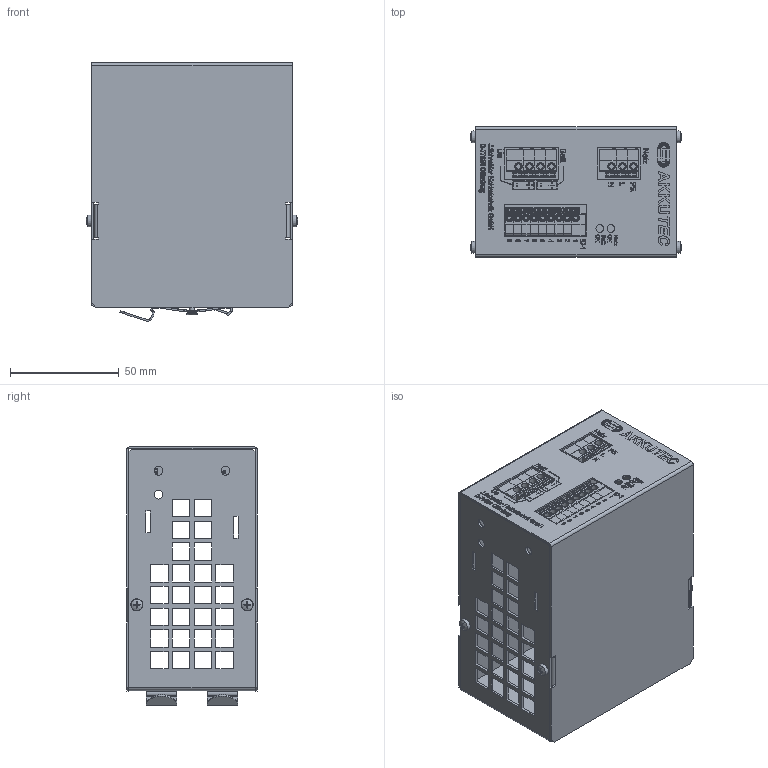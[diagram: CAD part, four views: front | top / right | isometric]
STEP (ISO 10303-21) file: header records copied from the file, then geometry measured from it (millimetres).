
FILE_DESCRIPTION(/* description */ ('Unterteil AkkuTEC 2402'),/* implementation_level */ '2;1');
FILE_NAME(/* name */ 'C:\VAULT_WORKSPACE\Designs\EE\Q33G1001\Q33G1001.stp',/* time_stamp */ '2015-07-24T13:29:54+02:00',/* author */ ('mhe'),/* organization */ (''),/* preprocessor_version */ 'ST-DEVELOPER v15.6',/* originating_system */ 'Autodesk Inventor 2015',/* authorisation */ '');
FILE_SCHEMA (('AUTOMOTIVE_DESIGN { 1 0 10303 214 3 1 1 }'));
Products named in the file (11): Q33G1K01; Q33G1K02; FM 4_TS35 0687900000; Q33G1_Niet; ISO 7049 - ST2,9 x 6,5 - F - HDIN ISO; FFKDSA1-H1-7,62; FFKDS-H1-5,08; FFKDS-H-3,81; FFKDSA1-H1-6,35; Q33G1K03; Q33G1001
Bounding box: 97.26 x 60 x 118.92 mm (x, y, z)
Volume: 46941 mm3; surface area: 98812.7 mm2
Topology: 126 solids, 126 shells, 3864 faces, 10007 edges, 6640 vertices
Faces by surface type: plane 2393, cylinder 778, bspline 533, torus 96, cone 60, sphere 4
Full cylindrical faces by diameter (mm): 0.457 x16, 1.3 x32, 1.4 x34, 1.48 x24, 1.7 x9, 2.4 x2, 2.43 x7, 2.5 x4, 2.9 x4, 3.13 x9, 3.2 x4, 3.242 x2, 3.5 x9, 4 x6, 4.1 x2, 4.4 x2, 5 x2
Entity records: 75047 total; most frequent: CARTESIAN_POINT 19524, ORIENTED_EDGE 12062, DIRECTION 9247, EDGE_CURVE 6031, LINE 4443, VECTOR 4443, VERTEX_POINT 4053, EDGE_LOOP 2726
